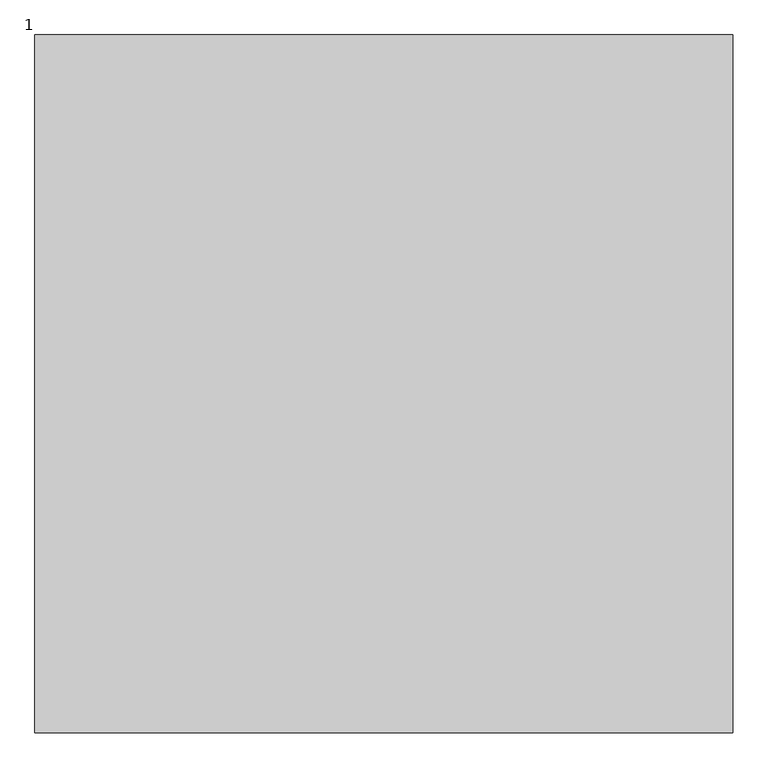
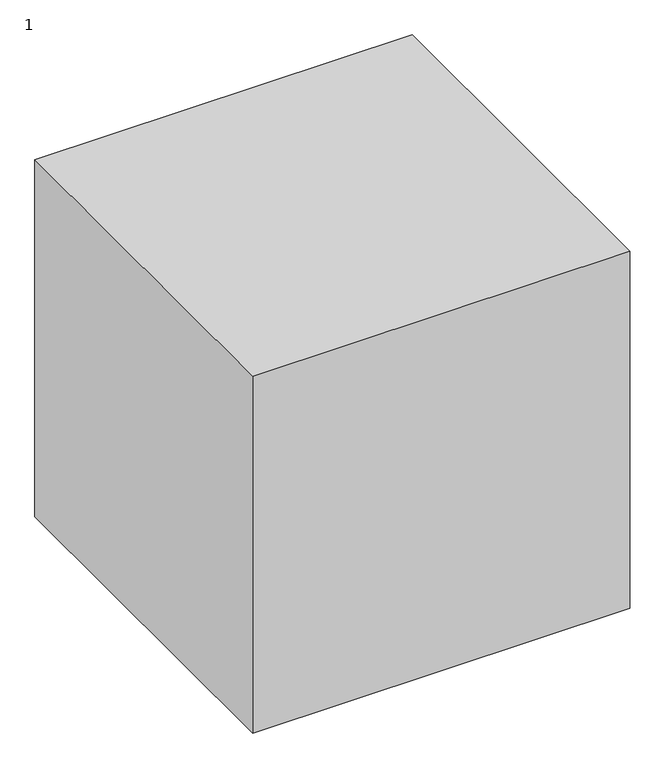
"""IFC4 building model written with IfcOpenShell, lengths in millimetres: proxy geometry, 12311111 : 1."""

from ifc_helpers import new_model, si_unit, origin, origin_with_axes, place, context, project, spatial, polyline, outline, extrude, source, transform, mapped, element, save


def proxy_1_e48f2c8b(model_context):
    return source(origin(), model_context, "Body", "SweptSolid", [
        extrude(outline(polyline([(-26307.9756708, -12664.7705528), (-26307.9756708, -13664.7705528), (-27307.9756708, -13664.7705528), (-27307.9756708, -12664.7705528), (-26307.9756708, -12664.7705528)])), origin_with_axes(), (0.0, 0.0, 1.0), 1000.0),
    ])


if __name__ == "__main__":
    model = new_model("IFC4")
    model_context = context("Model", 3, world=origin())
    ifc_project = project(units=[si_unit("LENGTHUNIT", "METRE", prefix="MILLI")], contexts=[model_context])
    site = spatial("IfcSite", under=ifc_project)
    building = spatial("IfcBuilding", under=site)
    placement = place(None, origin())
    proxy_1_shape = proxy_1_e48f2c8b(model_context)
    element("IfcBuildingElementProxy", 1, Name="12311111 : 1", ObjectType="12311111 : 1", at=placement, inside=building, context=model_context, shape_type="MappedRepresentation", body=[
        mapped(proxy_1_shape, transform((0.0, 0.0, 0.0), x_axis=(1.0, 0.0, 0.0), y_axis=(0.0, 1.0, 0.0), z_axis=(0.0, 0.0, 1.0))),
    ])
    save(model, "model.ifc")
